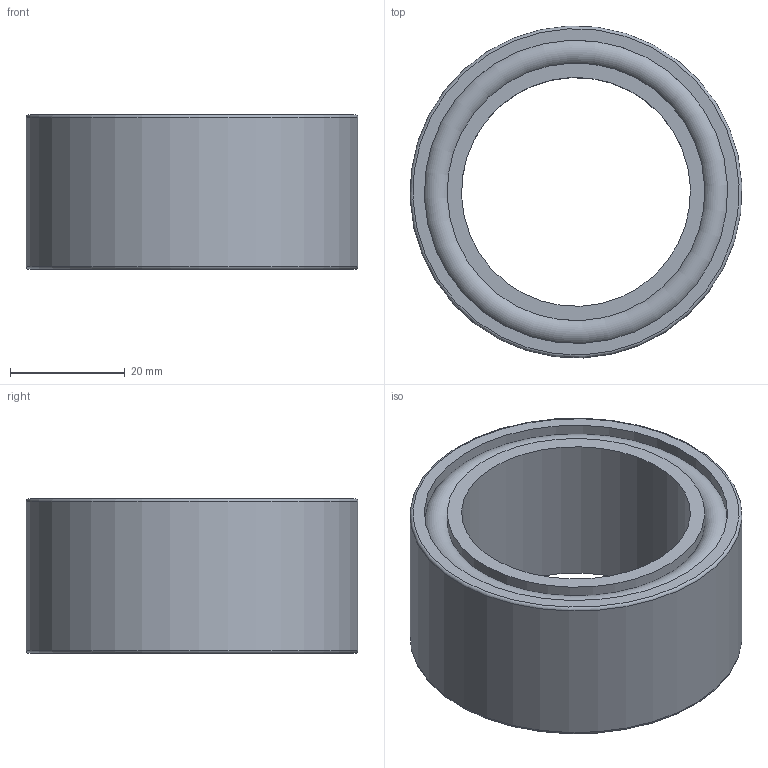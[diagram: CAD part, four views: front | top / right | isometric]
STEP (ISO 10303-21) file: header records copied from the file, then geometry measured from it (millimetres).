
FILE_DESCRIPTION(/* description */ (''),/* implementation_level */ '2;1');
FILE_NAME(/* name */ '300687 FP 453 Z.stp',/* time_stamp */ '2016-11-17T14:31:15+01:00',/* author */ (''),/* organization */ (''),/* preprocessor_version */ 'ST-DEVELOPER v15',/* originating_system */ 'SIEMENS PLM Software NX 8.5',/* authorisation */ '');
FILE_SCHEMA (('CONFIG_CONTROL_DESIGN'));
Length unit declared in the file: millimetre
Products named in the file (3): ATE0000080_01; ATE0000093_01; ATE0000095_01
Assembly tree (2 placements, depth 2):
  ATE0000095_01
    ATE0000093_01
    ATE0000080_01
Bounding box: 57.94 x 57.94 x 27 mm (x, y, z)
Volume: 29584 mm3; surface area: 26774.7 mm2
Topology: 3 solids, 3 shells, 70 faces, 153 edges, 101 vertices
Faces by surface type: plane 44, cylinder 22, torus 4
Full cylindrical faces by diameter (mm): 40 x1, 45 x3, 49 x1, 50 x1, 51 x1, 52 x2, 53 x4, 58 x1
Entity records: 2088 total; most frequent: DIRECTION 334, CARTESIAN_POINT 293, ORIENTED_EDGE 252, AXIS2_PLACEMENT_3D 135, EDGE_CURVE 126, EDGE_LOOP 108, VERTEX_POINT 94, ADVANCED_FACE 70
